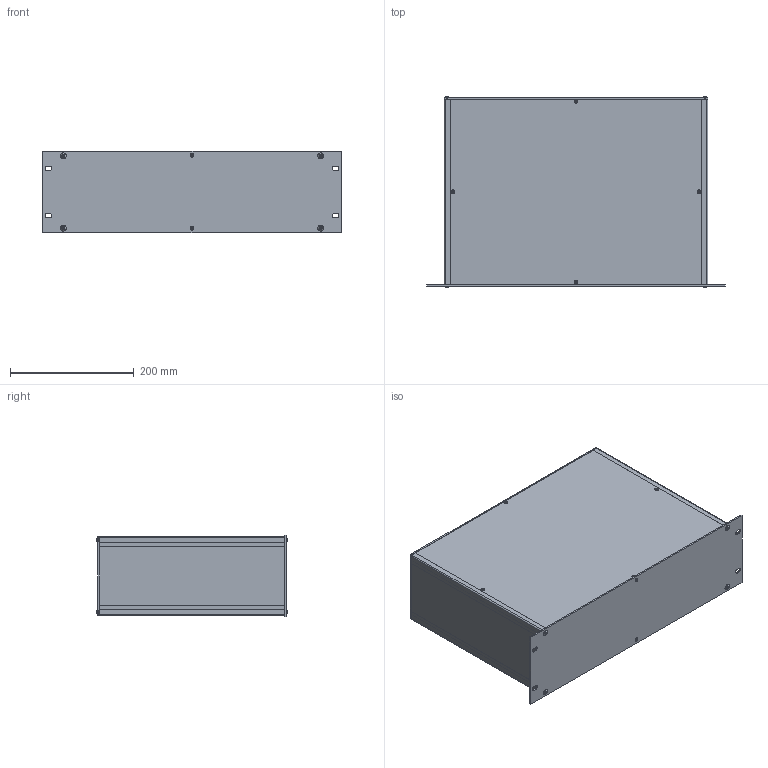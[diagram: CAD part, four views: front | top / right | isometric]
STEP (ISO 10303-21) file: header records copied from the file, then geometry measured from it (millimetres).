
FILE_DESCRIPTION(/* description */ (''),/* implementation_level */ '2;1');
FILE_NAME(/* name */ '//diskstation/Kunden/Gehäuse/Gehäuse/3HE/step/Zoll 3HE Rack Gehäuse Tiefe-300.step',/* time_stamp */ '2022-02-17T15:44:02+01:00',/* author */ (''),/* organization */ (''),/* preprocessor_version */ 'ST-DEVELOPER v18.1',/* originating_system */ 'Autodesk Translation Framework v10.10.0.1391',/* authorisation */ '');
FILE_SCHEMA (('AUTOMOTIVE_DESIGN { 1 0 10303 214 3 1 1 }'));
Length unit declared in the file: millimetre
Products named in the file (28): 3HE Gehäuse mit parametern; Gehäuse; Gehäuseprofil 1 unten links; Gehäuseprofil 2 oben rechts; Gehäuseprofil 1 unten rechts; Gehäuseprofil 2 oben links; Rückplatte; Deckel; Seitenteil links; Seitenteil rechts; Bodenplatte; Montageklotz Front/Deckel; Montageklotz Front/Boden; Montageklotz Rück/Deckel; Montageklotz Rück/Boden; Gewindestreifen; Frontplatte; Schrauben M5; Schraube Front; Schraube Front (1); Schraube Front (2); Schraube Front (3); Schraube Rück (1); Schraube Rück; Schraube Rück (2); Schraube Rück (3); Schrauben M3; HI_Senkschraube DIN 965 A v2 M3x5 24677.030.005(High)
Assembly tree (37 placements, depth 3):
  3HE Gehäuse mit parametern
    Gehäuse
      Gehäuseprofil 1 unten links
      Gehäuseprofil 2 oben rechts
      Gehäuseprofil 1 unten rechts
      Gehäuseprofil 2 oben links
      Rückplatte
      Deckel
      Seitenteil links
      Seitenteil rechts
      Bodenplatte
      Montageklotz Front/Deckel
      Montageklotz Front/Boden
      Montageklotz Rück/Deckel
      Montageklotz Rück/Boden
      Gewindestreifen  x2
    Frontplatte
    Schrauben M5
      Schraube Front
      Schraube Front (1)
      Schraube Front (2)
      Schraube Front (3)
      Schraube Rück (1)
      Schraube Rück
      Schraube Rück (2)
      Schraube Rück (3)
    Schrauben M3
      HI_Senkschraube DIN 965 A v2 M3x5 24677.030.005(High)  x10
Bounding box: 483 x 308.2 x 132.5 mm (x, y, z)
Volume: 1127001.4 mm3; surface area: 994487.2 mm2
Topology: 34 solids, 34 shells, 874 faces, 2136 edges, 1330 vertices
Faces by surface type: cylinder 352, plane 342, cone 164, torus 8, bspline 8
Full cylindrical faces by diameter (mm): 2.529 x110, 3 x10, 3.2 x10, 4.234 x40, 5 x8, 5.2 x4, 5.3 x8, 5.6 x10, 9.5 x8
Entity records: 17235 total; most frequent: CARTESIAN_POINT 3138, DIRECTION 2890, ORIENTED_EDGE 2550, EDGE_CURVE 1275, AXIS2_PLACEMENT_3D 1090, VERTEX_POINT 798, EDGE_LOOP 761, LINE 710
